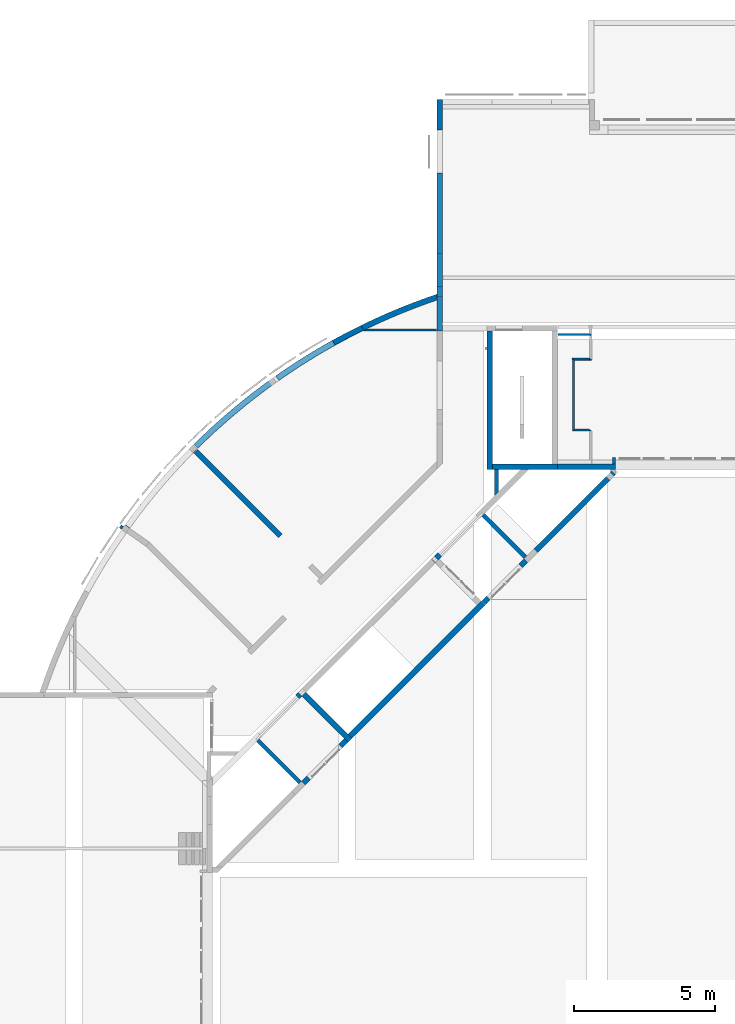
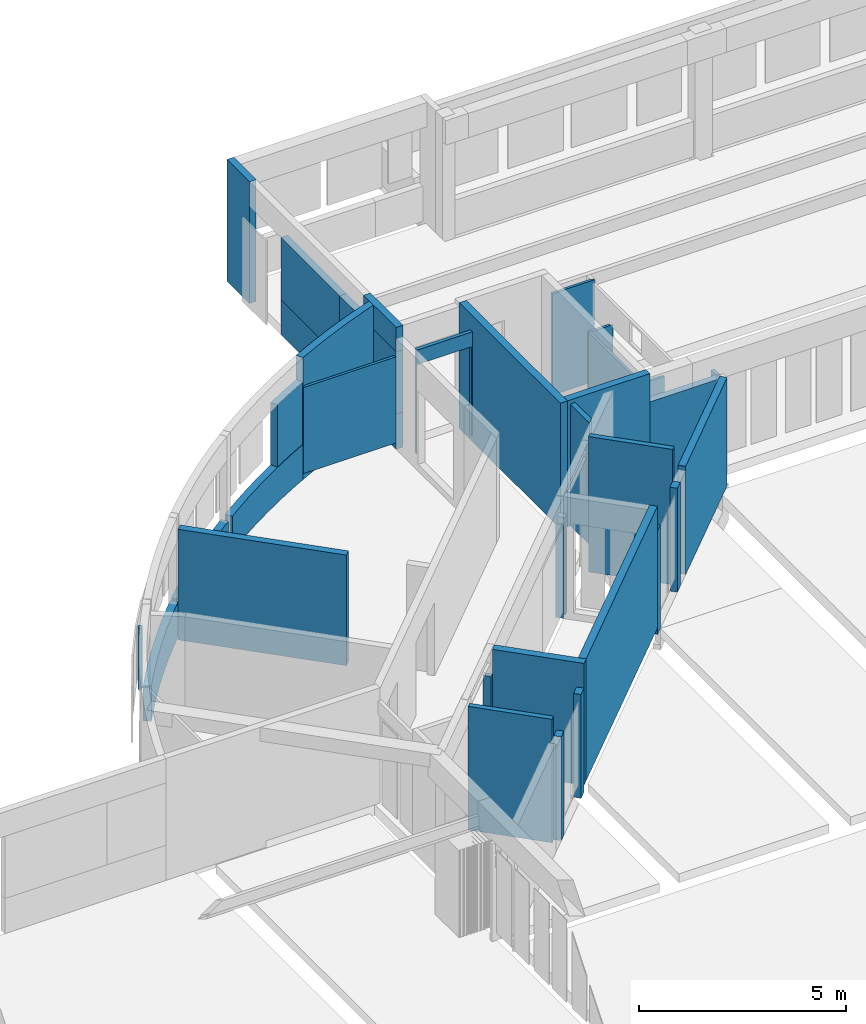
# One storey, part 19 of 30: 35 walls.
"""IFC4X3_ADD2 building model written with IfcOpenShell, lengths in millimetres."""

from ifc_helpers import new_model, si_unit, point, direction, frame, frame_2d, origin_with_axes, origin_2d_with_axis, place, context, subcontext, project, spatial, polyline, circle_curve, trimmed, segment, composite_curve, rectangle, outline, extrude, source, transform, mapped, material, type_object, type_shapes, element, save


model = new_model("IFC4X3_ADD2")

# Units and contexts
model_context = context("Model", 3, precision=1e-05, world=origin_with_axes(), true_north=direction((0.0, 1.0)))
body_context = subcontext(model_context, "Body", "Model", "MODEL_VIEW")
ifc_project = project(units=[si_unit("LENGTHUNIT", "METRE", prefix="MILLI"), si_unit("AREAUNIT", "SQUARE_METRE"), si_unit("VOLUMEUNIT", "CUBIC_METRE"), si_unit("PLANEANGLEUNIT", "RADIAN"), si_unit("TIMEUNIT", "SECOND"), si_unit("MASSUNIT", "GRAM")], contexts=[model_context])

# Site, building, storey
site_placement = place(None, origin_with_axes())
site = spatial("IfcSite", under=ifc_project, at=site_placement, Name="Site", CompositionType="ELEMENT")
building_placement = place(site_placement, origin_with_axes())
building = spatial("IfcBuilding", under=site, at=building_placement, Name="IFC Building Story")
storey_placement = place(building_placement, origin_with_axes())
storey = spatial("IfcBuildingStorey", under=building, at=storey_placement, Name="000", Elevation=0.0)

# Walls
ifc_material_1 = material(Name="BB_Beton_Bestaand")
wall_type_1 = type_object("IfcWallType", Name="BB_Beton_Bestaand 200", PredefinedType="NOTDEFINED", material=ifc_material_1)
wall_1_placement = place(storey_placement, origin_with_axes())
element("IfcWall", 1, at=wall_1_placement, inside=storey, type_object=wall_type_1, Name="Basic Wall:BB_XX_Wand uit beton, 200 mm", ObjectType="Basic Wall:BB_XX_Wand uit beton, 200 mm", PredefinedType="SOLIDWALL", context=body_context, shape_type="SweptSolid", body=[
    extrude(outline(composite_curve([segment(polyline([(-9733.712799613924, 19905.77020733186), (-9821.569416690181, 20085.43994556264)]), True, "CONTINUOUS"), segment(trimmed(circle_curve(origin_2d_with_axis(), 22358.17800299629), [point((-9821.569416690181, 20085.43994556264))], [point((-7143.15195390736, 21186.39902808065))], False, "CARTESIAN"), True, "CONTINUOUS"), segment(polyline([(-7143.15195390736, 21186.39902808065), (-7143.151953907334, 20975.22902320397)]), True, "CONTINUOUS"), segment(trimmed(circle_curve(origin_2d_with_axis(), 22158.17800299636), [point((-7143.151953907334, 20975.22902320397))], [point((-9733.712799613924, 19905.77020733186))], True, "CARTESIAN"), True, "CONTINUOUS")], self_intersect=False)), frame((-23516.84804616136, 23618.25324378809, -200.0), z_axis=(0.0, 0.0, 1.0), x_axis=(1.0, 0.0, 0.0)), (0.0, 0.0, 1.0), 3600.0),
])
wall_2_placement = place(storey_placement, origin_with_axes())
element("IfcWall", 2, at=wall_2_placement, inside=storey, type_object=wall_type_1, Name="Basic Wall:BB_XX_Wand uit beton, 200 mm", ObjectType="Basic Wall:BB_XX_Wand uit beton, 200 mm", PredefinedType="SOLIDWALL", context=body_context, shape_type="SweptSolid", body=[
    extrude(rectangle(XDim=2299.999999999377, YDim=199.9999999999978, at=frame_2d((0.0, 0.0), x_axis=(0.707106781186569, -0.707106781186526))), frame((-34551.52543263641, 29835.12320212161, -200.0), z_axis=(0.0, 0.0, 1.0), x_axis=(1.0, 0.0, 0.0)), (0.0, 0.0, 1.0), 3600.0),
])
wall_3_placement = place(storey_placement, origin_with_axes())
element("IfcWall", 3, at=wall_3_placement, inside=storey, type_object=wall_type_1, Name="Basic Wall:BB_XX_Wand uit beton, 200 mm", ObjectType="Basic Wall:BB_XX_Wand uit beton, 200 mm", PredefinedType="SOLIDWALL", context=body_context, shape_type="SweptSolid", body=[
    extrude(rectangle(XDim=6670.000000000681, YDim=199.9999999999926, at=frame_2d((0.0, 0.0), x_axis=(0.7071067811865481, 0.7071067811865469))), frame((-31380.15151901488, 31521.57287525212, -200.0), z_axis=(0.0, 0.0, 1.0), x_axis=(1.0, 0.0, 0.0)), (0.0, 0.0, 1.0), 3600.0),
])
wall_4_placement = place(storey_placement, origin_with_axes())
element("IfcWall", 4, at=wall_4_placement, inside=storey, type_object=wall_type_1, Name="Basic Wall:BB_XX_Wand uit beton, 200 mm", ObjectType="Basic Wall:BB_XX_Wand uit beton, 200 mm", PredefinedType="SOLIDWALL", context=body_context, shape_type="SweptSolid", body=[
    extrude(rectangle(XDim=4900.004065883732, YDim=200.0, at=frame_2d((0.0, 0.0), x_axis=(0.0, 1.0))), frame((-28800.0, 41049.99796705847, -200.0), z_axis=(0.0, 0.0, 1.0), x_axis=(1.0, 0.0, 0.0)), (0.0, 0.0, 1.0), 3720.0),
])
wall_5_placement = place(storey_placement, origin_with_axes())
element("IfcWall", 5, at=wall_5_placement, inside=storey, type_object=wall_type_1, Name="Basic Wall:BB_XX_Wand uit beton, 200 mm", ObjectType="Basic Wall:BB_XX_Wand uit beton, 200 mm", PredefinedType="SOLIDWALL", context=body_context, shape_type="SweptSolid", body=[
    extrude(rectangle(XDim=2299.999999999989, YDim=200.0, at=origin_2d_with_axis()), frame((-27550.0, 38699.9959341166, -200.0), z_axis=(0.0, 0.0, 1.0), x_axis=(1.0, 0.0, 0.0)), (0.0, 0.0, 1.0), 3720.0),
])
wall_6_placement = place(storey_placement, origin_with_axes())
element("IfcWall", 6, at=wall_6_placement, inside=storey, type_object=wall_type_1, Name="Basic Wall:BB_XX_Wand uit beton, 200 mm", ObjectType="Basic Wall:BB_XX_Wand uit beton, 200 mm", PredefinedType="SOLIDWALL", context=body_context, shape_type="SweptSolid", body=[
    extrude(outline(composite_curve([segment(polyline([(-1447.86300735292, -971.9756328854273), (-1562.966954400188, -808.4180547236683)]), True, "CONTINUOUS"), segment(trimmed(circle_curve(frame_2d((11213.57116789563, -18963.30923071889), x_axis=(1.0, 0.0)), 22200.00000006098), [point((-1562.966954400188, -808.4180547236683))], [point((1461.486672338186, 980.0317129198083))], False, "CARTESIAN"), True, "CONTINUOUS"), segment(polyline([(1461.486672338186, 980.0317129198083), (1549.343289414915, 800.3619746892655)]), True, "CONTINUOUS"), segment(trimmed(circle_curve(frame_2d((11213.57116789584, -18963.30923071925), x_axis=(1.0, 0.0)), 22000.0000000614), [point((1549.343289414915, 800.3619746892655))], [point((-1447.86300735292, -971.9756328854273))], True, "CARTESIAN"), True, "CONTINUOUS")], self_intersect=False)), frame((-34799.90413523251, 42723.66147642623, -200.0), z_axis=(0.0, 0.0, 1.0), x_axis=(1.0, 0.0, 0.0)), (0.0, 0.0, 1.0), 1040.0),
])
wall_7_placement = place(storey_placement, origin_with_axes())
element("IfcWall", 7, at=wall_7_placement, inside=storey, type_object=wall_type_1, Name="Basic Wall:BB_XX_Wand uit beton, 200 mm", ObjectType="Basic Wall:BB_XX_Wand uit beton, 200 mm", PredefinedType="SOLIDWALL", context=body_context, shape_type="SweptSolid", body=[
    extrude(outline(composite_curve([segment(polyline([(-1095.967827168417, -1445.903082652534), (-1258.545572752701, -1329.419278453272)]), True, "CONTINUOUS"), segment(trimmed(circle_curve(frame_2d((16916.16530275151, -14351.24742220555), x_axis=(1.0, 0.0)), 22358.17800299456), [point((-1258.545572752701, -1329.419278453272))], [point((1106.546021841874, 1458.371858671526))], False, "CARTESIAN"), True, "CONTINUOUS"), segment(polyline([(1106.546021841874, 1458.371858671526), (1247.967378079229, 1316.950502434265)]), True, "CONTINUOUS"), segment(trimmed(circle_curve(frame_2d((16916.16530275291, -14351.24742220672), x_axis=(1.0, 0.0)), 22158.17800299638), [point((1247.967378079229, 1316.950502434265))], [point((-1095.967827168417, -1445.903082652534))], True, "CARTESIAN"), True, "CONTINUOUS")], self_intersect=False)), frame((-40433.0133489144, 37969.50066599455, -200.0), z_axis=(0.0, 0.0, 1.0), x_axis=(1.0, 0.0, 0.0)), (0.0, 0.0, 1.0), 1040.0),
])
wall_8_placement = place(storey_placement, origin_with_axes())
element("IfcWall", 8, at=wall_8_placement, inside=storey, type_object=wall_type_1, Name="Basic Wall:BB_XX_Wand uit beton, 200 mm", ObjectType="Basic Wall:BB_XX_Wand uit beton, 200 mm", PredefinedType="SOLIDWALL", context=body_context, shape_type="SweptSolid", body=[
    extrude(outline(composite_curve([segment(polyline([(-1275.108972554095, -1208.075469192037), (-1415.886190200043, -1066.012894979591)]), True, "CONTINUOUS"), segment(trimmed(circle_curve(frame_2d((14321.72426428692, -16947.31450399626), x_axis=(1.0, 0.0)), 22358.17800299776), [point((-1415.886190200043, -1066.012894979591))], [point((1287.198889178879, 1218.29233583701))], False, "CARTESIAN"), True, "CONTINUOUS"), segment(polyline([(1287.198889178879, 1218.29233583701), (1403.796273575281, 1055.796028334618)]), True, "CONTINUOUS"), segment(trimmed(circle_curve(frame_2d((14321.72426428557, -16947.31450399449), x_axis=(1.0, 0.0)), 22158.17800299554), [point((1403.796273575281, 1055.796028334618))], [point((-1275.108972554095, -1208.075469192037))], True, "CARTESIAN"), True, "CONTINUOUS")], self_intersect=False)), frame((-37838.57231044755, 40565.56774778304, -310.0), z_axis=(0.0, 0.0, 1.0), x_axis=(1.0, 0.0, 0.0)), (0.0, 0.0, 1.0), 1150.0),
])
wall_type_2 = type_object("IfcWallType", Name="BB_Beton_Bestaand 190", PredefinedType="NOTDEFINED", material=ifc_material_1)
wall_9_placement = place(storey_placement, origin_with_axes())
element("IfcWall", 9, at=wall_9_placement, inside=storey, type_object=wall_type_2, Name="Basic Wall:BB_XX_Wand uit beton, 190 mm", ObjectType="Basic Wall:BB_XX_Wand uit beton, 190 mm", PredefinedType="SOLIDWALL", context=body_context, shape_type="SweptSolid", body=[
    extrude(rectangle(XDim=5585.000000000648, YDim=190.0, at=frame_2d((0.0, 0.0), x_axis=(0.0, 1.0))), frame((-30565.0, 46292.50000000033, -200.0), z_axis=(0.0, 0.0, 1.0), x_axis=(1.0, 0.0, 0.0)), (0.0, 0.0, 1.0), 1040.0),
])
wall_10_placement = place(storey_placement, origin_with_axes())
element("IfcWall", 10, at=wall_10_placement, inside=storey, type_object=wall_type_2, Name="Basic Wall:BB_XX_Wand uit beton, 190 mm", ObjectType="Basic Wall:BB_XX_Wand uit beton, 190 mm", PredefinedType="SOLIDWALL", context=body_context, shape_type="SweptSolid", body=[
    extrude(rectangle(XDim=2055.000000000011, YDim=190.0, at=origin_2d_with_axis()), frame((-25372.5, 38699.9959341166, -200.0), z_axis=(0.0, 0.0, 1.0), x_axis=(1.0, 0.0, 0.0)), (0.0, 0.0, 1.0), 2880.0),
])
wall_11_placement = place(storey_placement, origin_with_axes())
element("IfcWall", 11, at=wall_11_placement, inside=storey, type_object=wall_type_2, Name="Basic Wall:BB_XX_Wand uit beton, 190 mm", ObjectType="Basic Wall:BB_XX_Wand uit beton, 190 mm", PredefinedType="SOLIDWALL", context=body_context, shape_type="SweptSolid", body=[
    extrude(rectangle(XDim=1089.999999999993, YDim=190.0000000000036, at=frame_2d((0.0, 0.0), x_axis=(0.0, 1.0))), frame((-30565.0, 51149.99999999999, -200.0), z_axis=(0.0, 0.0, 1.0), x_axis=(1.0, 0.0, 0.0)), (0.0, 0.0, 1.0), 3600.0),
])
wall_type_3 = type_object("IfcWallType", Name="Basic Wall_BB_XX_Wand uit beton_ 200 mm1", PredefinedType="NOTDEFINED")
shared_shape_1 = source(origin_with_axes(), body_context, "Body", "SweptSolid", [
    extrude(rectangle(XDim=200.0000000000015, YDim=170.0000000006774, at=frame_2d((0.0, 0.0), x_axis=(0.0, 1.0))), frame((84.99999999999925, -3.993250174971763e-12, 0.0), z_axis=(0.0, 0.0, 1.0), x_axis=(1.0, 0.0, 0.0)), (0.0, 0.0, 1.0), 2880.0),
    extrude(rectangle(XDim=200.0000000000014, YDim=11.99999999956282, at=frame_2d((0.0, 0.0), x_axis=(0.0, 1.0))), frame((314.0000000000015, 3.151257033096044e-12, 0.0), z_axis=(0.0, 0.0, 1.0), x_axis=(1.0, 0.0, 0.0)), (0.0, 0.0, 1.0), 2770.0),
])
type_shapes(wall_type_3, [shared_shape_1])
wall_12_placement = place(storey_placement, frame((-30563.4431867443, 35590.972400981, -200.0), z_axis=(0.0, 0.0, 1.0), x_axis=(-0.7071067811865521, -0.707106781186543, 0.0)))
element("IfcWall", 12, at=wall_12_placement, inside=storey, type_object=wall_type_3, material=ifc_material_1, Name="Basic Wall:BB_XX_Wand uit beton, 200 mm", ObjectType="Basic Wall:BB_XX_Wand uit beton, 200 mm", PredefinedType="SOLIDWALL", context=body_context, shape_type="MappedRepresentation", body=[
    mapped(shared_shape_1, transform((0.0, 0.0, 0.0))),
])
ifc_material_2 = material(Name="BB_Metselwerk_Bestaand")
wall_type_4 = type_object("IfcWallType", Name="BB_Metselwerk_Bestaand 140", PredefinedType="NOTDEFINED", material=ifc_material_2)
wall_13_placement = place(storey_placement, origin_with_axes())
element("IfcWall", 13, at=wall_13_placement, inside=storey, type_object=wall_type_4, Name="Basic Wall:BB_XX_Wand uit metselwerk, 140 mm", ObjectType="Basic Wall:BB_XX_Wand uit metselwerk, 140 mm", PredefinedType="SOLIDWALL", context=body_context, shape_type="SweptSolid", body=[
    extrude(outline(polyline([(-69.99999999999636, -499.0794950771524), (-69.99999999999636, 429.0794950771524), (70.0, 429.0794950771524), (70.0, -359.0794950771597), (-69.99999999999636, -499.0794950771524)])), frame((-28554.0, 38170.91643903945, -200.0), z_axis=(0.0, 0.0, 1.0), x_axis=(1.0, 0.0, 0.0)), (0.0, 0.0, 1.0), 3600.0),
])
wall_type_5 = type_object("IfcWallType", Name="BB_Metselwerk_Bestaand 190", PredefinedType="NOTDEFINED", material=ifc_material_2)
wall_14_placement = place(storey_placement, origin_with_axes())
element("IfcWall", 14, at=wall_14_placement, inside=storey, type_object=wall_type_5, Name="Basic Wall:BB_XX_Wand uit metselwerk, 190 mm", ObjectType="Basic Wall:BB_XX_Wand uit metselwerk, 190 mm", PredefinedType="SOLIDWALL", context=body_context, shape_type="SweptSolid", body=[
    extrude(rectangle(XDim=1515.000000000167, YDim=190.0, at=frame_2d((0.0, 0.0), x_axis=(0.0, 1.0))), frame((-30565.0, 45477.49999999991, 840.0), z_axis=(0.0, 0.0, 1.0), x_axis=(1.0, 0.0, 0.0)), (0.0, 0.0, 1.0), 1840.0),
])
wall_15_placement = place(storey_placement, origin_with_axes())
element("IfcWall", 15, at=wall_15_placement, inside=storey, type_object=wall_type_5, Name="Basic Wall:BB_XX_Wand uit metselwerk, 190 mm", ObjectType="Basic Wall:BB_XX_Wand uit metselwerk, 190 mm", PredefinedType="SOLIDWALL", context=body_context, shape_type="SweptSolid", body=[
    extrude(rectangle(XDim=1574.999999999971, YDim=190.0, at=frame_2d((0.0, 0.0), x_axis=(0.0, 1.0))), frame((-30565.0, 44287.50000000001, 2680.0), z_axis=(0.0, 0.0, 1.0), x_axis=(1.0, 0.0, 0.0)), (0.0, 0.0, 1.0), 720.000000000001),
])
wall_16_placement = place(storey_placement, origin_with_axes())
element("IfcWall", 16, at=wall_16_placement, inside=storey, type_object=wall_type_5, Name="Basic Wall:BB_XX_Wand uit metselwerk, _EI60_43dB, 190 mm", ObjectType="Basic Wall:BB_XX_Wand uit metselwerk, _EI60_43dB, 190 mm", PredefinedType="SOLIDWALL", context=body_context, shape_type="SweptSolid", body=[
    extrude(rectangle(XDim=1220.0, YDim=190.0, at=frame_2d((0.0, 0.0), x_axis=(0.0, 1.0))), frame((-30565.0, 44110.0, 840.0), z_axis=(0.0, 0.0, 1.0), x_axis=(1.0, 0.0, 0.0)), (0.0, 0.0, 1.0), 1840.0),
])
ifc_material_3 = material(Name="BB_Metselwerk_Betonsteen")
wall_type_6 = type_object("IfcWallType", Name="BB_Metselwerk_Betonsteen 190", PredefinedType="NOTDEFINED", material=ifc_material_3)
wall_17_placement = place(storey_placement, origin_with_axes())
element("IfcWall", 17, at=wall_17_placement, inside=storey, type_object=wall_type_6, Name="Basic Wall:BB_03.09.24#03_Wand uit metselwerk, 190 mm", ObjectType="Basic Wall:BB_03.09.24#03_Wand uit metselwerk, 190 mm", PredefinedType="SOLIDWALL", context=body_context, shape_type="SweptSolid", body=[
    extrude(outline(composite_curve([segment(polyline([(466.7199891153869, 350.4098670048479), (550.1837753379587, 179.723615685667)]), True, "CONTINUOUS"), segment(trimmed(circle_curve(frame_2d((10288.28940580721, -19735.0300785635), x_axis=(1.0, 0.0)), 22168.17800300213), [point((550.1837753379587, 179.723615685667))], [point((-462.3807228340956, -348.1477155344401))], True, "CARTESIAN"), True, "CONTINUOUS"), segment(polyline([(-462.3807228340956, -348.1477155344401), (-554.5230416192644, -181.9857671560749)]), True, "CONTINUOUS"), segment(trimmed(circle_curve(frame_2d((10288.28940580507, -19735.03007855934), x_axis=(1.0, 0.0)), 22358.17800299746), [point((-554.5230416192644, -181.9857671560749))], [point((466.7199891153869, 350.4098670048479))], False, "CARTESIAN"), True, "CONTINUOUS")], self_intersect=False)), frame((-33805.13745196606, 43353.28332234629, 840.0), z_axis=(0.0, 0.0, 1.0), x_axis=(1.0, 0.0, 0.0)), (0.0, 0.0, 1.0), 1840.0),
])
wall_18_placement = place(storey_placement, origin_with_axes())
element("IfcWall", 18, at=wall_18_placement, inside=storey, type_object=wall_type_6, Name="Basic Wall:BB_03.09.24#03_Wand uit metselwerk, 190 mm", ObjectType="Basic Wall:BB_03.09.24#03_Wand uit metselwerk, 190 mm", PredefinedType="SOLIDWALL", context=body_context, shape_type="SweptSolid", body=[
    extrude(rectangle(XDim=2850.00000000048, YDim=190.0, at=frame_2d((0.0, 0.0), x_axis=(0.0, 1.0))), frame((-30565.0, 47660.00000000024, 840.0), z_axis=(0.0, 0.0, 1.0), x_axis=(1.0, 0.0, 0.0)), (0.0, 0.0, 1.0), 1840.0),
])
wall_19_placement = place(storey_placement, origin_with_axes())
element("IfcWall", 19, at=wall_19_placement, inside=storey, type_object=wall_type_6, Name="Basic Wall:BB_03.09.24#03_Wand uit metselwerk, 190 mm", ObjectType="Basic Wall:BB_03.09.24#03_Wand uit metselwerk, 190 mm", PredefinedType="SOLIDWALL", context=body_context, shape_type="SweptSolid", body=[
    extrude(rectangle(XDim=4222.366668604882, YDim=189.9999999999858, at=frame_2d((0.0, 0.0), x_axis=(-0.7071067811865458, 0.7071067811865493))), frame((-37694.30846382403, 37753.16371611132, -200.0), z_axis=(0.0, 0.0, 1.0), x_axis=(1.0, 0.0, 0.0)), (0.0, 0.0, 1.0), 3270.0),
])
wall_20_placement = place(storey_placement, origin_with_axes())
element("IfcWall", 20, at=wall_20_placement, inside=storey, type_object=wall_type_6, Name="Basic Wall:BB_03.09.24#05_Wand uit metselwerk_EI60, 190 mm", ObjectType="Basic Wall:BB_03.09.24#05_Wand uit metselwerk_EI60, 190 mm", PredefinedType="SOLIDWALL", context=body_context, shape_type="SweptSolid", body=[
    extrude(rectangle(XDim=3886.428463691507, YDim=190.0000000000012, at=frame_2d((0.0, 0.0), x_axis=(0.7071067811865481, 0.7071067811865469))), frame((-25784.66407470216, 37109.98925176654, -400.0), z_axis=(0.0, 0.0, 1.0), x_axis=(1.0, 0.0, 0.0)), (0.0, 0.0, 1.0), 3200.0),
])
wall_21_placement = place(storey_placement, origin_with_axes())
element("IfcWall", 21, at=wall_21_placement, inside=storey, type_object=wall_type_6, Name="Basic Wall:BB_03.09.24#05_Wand uit metselwerk_EI60, 190 mm", ObjectType="Basic Wall:BB_03.09.24#05_Wand uit metselwerk_EI60, 190 mm", PredefinedType="SOLIDWALL", context=body_context, shape_type="SweptSolid", body=[
    extrude(rectangle(XDim=250.0000000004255, YDim=189.9999999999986, at=frame_2d((0.0, 0.0), x_axis=(0.7071067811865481, 0.7071067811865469))), frame((-28919.41992049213, 33975.23340597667, -400.0), z_axis=(0.0, 0.0, 1.0), x_axis=(1.0, 0.0, 0.0)), (0.0, 0.0, 1.0), 3069.99999999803),
])
wall_22_placement = place(storey_placement, origin_with_axes())
element("IfcWall", 22, at=wall_22_placement, inside=storey, type_object=wall_type_6, Name="Basic Wall:BB_03.09.24#05_Wand uit metselwerk_EI60, 190 mm", ObjectType="Basic Wall:BB_03.09.24#05_Wand uit metselwerk_EI60, 190 mm", PredefinedType="SOLIDWALL", context=body_context, shape_type="SweptSolid", body=[
    extrude(rectangle(XDim=270.0011149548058, YDim=190.0000000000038, at=frame_2d((0.0, 0.0), x_axis=(0.7071067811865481, 0.7071067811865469))), frame((-27607.73723558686, 35286.91609088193, -400.0), z_axis=(0.0, 0.0, 1.0), x_axis=(1.0, 0.0, 0.0)), (0.0, 0.0, 1.0), 3069.99999999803),
])
wall_23_placement = place(storey_placement, origin_with_axes())
element("IfcWall", 23, at=wall_23_placement, inside=storey, type_object=wall_type_6, Name="Basic Wall:BB_03.09.24#05_Wand uit metselwerk_EI60, 190 mm", ObjectType="Basic Wall:BB_03.09.24#05_Wand uit metselwerk_EI60, 190 mm", PredefinedType="SOLIDWALL", context=body_context, shape_type="SweptSolid", body=[
    extrude(rectangle(XDim=254.9921775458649, YDim=190.0000000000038, at=frame_2d((0.0, 0.0), x_axis=(0.7071067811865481, 0.7071067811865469))), frame((-35292.2037299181, 27602.4119532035, -400.0), z_axis=(0.0, 0.0, 1.0), x_axis=(1.0, 0.0, 0.0)), (0.0, 0.0, 1.0), 3069.999999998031),
])
wall_24_placement = place(storey_placement, origin_with_axes())
element("IfcWall", 24, at=wall_24_placement, inside=storey, type_object=wall_type_6, Name="Basic Wall:BB_03.09.24#05_Wand uit metselwerk_EI60, 190 mm", ObjectType="Basic Wall:BB_03.09.24#05_Wand uit metselwerk_EI60, 190 mm", PredefinedType="SOLIDWALL", context=body_context, shape_type="SweptSolid", body=[
    extrude(outline(polyline([(166.157490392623, 31.82602241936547), (-31.8008160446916, -166.1699249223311), (-166.1638757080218, -31.8324089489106), (31.80720136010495, 166.1763114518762), (166.157490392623, 31.82602241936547)])), frame((-33975.22080217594, 28919.41370261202, -400.0), z_axis=(0.0, 0.0, 1.0), x_axis=(1.0, 0.0, 0.0)), (0.0, 0.0, 1.0), 3069.99999999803),
])
wall_type_7 = type_object("IfcWallType", Name="Basic Wall_BB_10.01.62#01_Voorzetwand gipskarton_MS75 _ 50.25_ 75 mm1", PredefinedType="NOTDEFINED")
shared_shape_2 = source(origin_with_axes(), body_context, "Body", "SweptSolid", [
    extrude(rectangle(XDim=1112.499999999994, YDim=12.49999999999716, at=origin_2d_with_axis()), frame((556.249999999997, 31.25000000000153, 0.0), z_axis=(0.0, 0.0, 1.0), x_axis=(1.0, 0.0, 0.0)), (0.0, 0.0, 1.0), 3000.0),
    extrude(rectangle(XDim=1124.999999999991, YDim=12.50000000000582, at=origin_2d_with_axis()), frame((562.4999999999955, 18.7500000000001, 0.0), z_axis=(0.0, 0.0, 1.0), x_axis=(1.0, 0.0, 0.0)), (0.0, 0.0, 1.0), 3000.0),
    extrude(rectangle(XDim=1174.999999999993, YDim=49.9999999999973, at=origin_2d_with_axis()), frame((587.5000000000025, -12.50000000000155, 0.0), z_axis=(0.0, 0.0, 1.0), x_axis=(1.0, 0.0, 0.0)), (0.0, 0.0, 1.0), 3000.0),
])
type_shapes(wall_type_7, [shared_shape_2])
wall_25_placement = place(storey_placement, frame((-26385.0, 43377.5000000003, 0.0), z_axis=(0.0, 0.0, 1.0), x_axis=(1.0, 0.0, 0.0)))
element("IfcWall", 25, at=wall_25_placement, inside=storey, type_object=wall_type_7, Name="Basic Wall:BB_10.01.62#01_Voorzetwand gipskarton_MS75 / 50.25, 75 mm", ObjectType="Basic Wall:BB_10.01.62#01_Voorzetwand gipskarton_MS75 / 50.25, 75 mm", PredefinedType="PARTITIONING", context=body_context, shape_type="MappedRepresentation", body=[
    mapped(shared_shape_2, transform((0.0, 0.0, 0.0))),
])
wall_type_8 = type_object("IfcWallType", Name="Basic Wall_BB_10.01.41#03_Gipskartonwand_43dB_MS100 _ 25.50.25_ 100 mm1", PredefinedType="NOTDEFINED")
shared_shape_3 = source(origin_with_axes(), body_context, "Body", "SweptSolid", [
    extrude(outline(polyline([(756.2500000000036, -1212.5), (756.2500000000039, 1427.5), (781.2499999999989, 1427.5), (781.2499999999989, -1642.5), (-773.750000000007, -1642.5), (-773.7500000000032, 1427.5), (-763.7499999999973, 1427.5), (-763.7499999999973, -1212.5), (756.2500000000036, -1212.5)])), frame((773.7500000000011, 37.4999999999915, 1427.5), z_axis=(0.0, 1.0, 0.0), x_axis=(1.0, 0.0, 0.0)), (0.0, 0.0, 1.0), 12.4999999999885),
    extrude(outline(polyline([(756.2500000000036, -1212.5), (756.2500000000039, 1427.5), (781.2499999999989, 1427.5), (781.2499999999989, -1642.5), (-773.750000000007, -1642.5), (-773.7500000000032, 1427.5), (-763.7499999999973, 1427.5), (-763.7499999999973, -1212.5), (756.2500000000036, -1212.5)])), frame((773.7500000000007, 25.0, 1427.5), z_axis=(0.0, 1.0, 0.0), x_axis=(1.0, 0.0, 0.0)), (0.0, 0.0, 1.0), 12.49999999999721),
    extrude(outline(polyline([(756.2500000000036, -1212.5), (756.2500000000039, 1427.5), (781.2499999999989, 1427.5), (781.2499999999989, -1642.5), (-773.750000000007, -1642.5), (-773.7500000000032, 1427.5), (-763.7499999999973, 1427.5), (-763.7499999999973, -1212.5), (756.2500000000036, -1212.5)])), frame((773.7500000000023, -25.0, 1427.5), z_axis=(0.0, 1.0, 0.0), x_axis=(1.0, 0.0, 0.0)), (0.0, 0.0, 1.0), 50.000000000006),
    extrude(outline(polyline([(756.2500000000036, -1212.5), (756.2500000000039, 1427.5), (781.2499999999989, 1427.5), (781.2499999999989, -1642.5), (-773.750000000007, -1642.5), (-773.7500000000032, 1427.5), (-763.7499999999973, 1427.5), (-763.7499999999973, -1212.5), (756.2500000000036, -1212.5)])), frame((773.7500000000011, -37.5000000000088, 1427.5), z_axis=(0.0, 1.0, 0.0), x_axis=(1.0, 0.0, 0.0)), (0.0, 0.0, 1.0), 12.49999999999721),
    extrude(outline(polyline([(781.2499999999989, 1427.5), (781.2499999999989, -1642.5), (-773.750000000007, -1642.5), (-773.7500000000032, 1427.5), (-763.7499999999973, 1427.5), (-763.7499999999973, -1212.5), (756.2500000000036, -1212.5), (756.2500000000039, 1427.5), (781.2499999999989, 1427.5)])), frame((773.7500000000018, -50.0, 1427.5), z_axis=(0.0, 1.0, 0.0), x_axis=(1.0, 0.0, 0.0)), (0.0, 0.0, 1.0), 12.5000000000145),
])
type_shapes(wall_type_8, [shared_shape_3])
wall_26_placement = place(storey_placement, frame((-30470.0, 42880.0, 0.0), z_axis=(0.0, 0.0, 1.0), x_axis=(1.0, 0.0, 0.0)))
element("IfcWall", 26, at=wall_26_placement, inside=storey, type_object=wall_type_8, Name="Basic Wall:BB_10.01.41#03_Gipskartonwand_43dB_MS100 / 25.50.25, 100 mm", ObjectType="Basic Wall:BB_10.01.41#03_Gipskartonwand_43dB_MS100 / 25.50.25, 100 mm", PredefinedType="PARTITIONING", context=body_context, shape_type="MappedRepresentation", body=[
    mapped(shared_shape_3, transform((0.0, 0.0, 0.0))),
])
wall_type_9 = type_object("IfcWallType", Name="Basic Wall_BB_10.01.41#03_Gipskartonwand_43dB_MS100 _ 25.50.25_ 100 mm25", PredefinedType="NOTDEFINED")
shared_shape_4 = source(origin_with_axes(), body_context, "Body", "SweptSolid", [
    extrude(rectangle(XDim=240.000000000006, YDim=12.50000000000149, at=origin_2d_with_axis()), frame((120.0, 43.75000000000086, 0.0), z_axis=(0.0, 0.0, 1.0), x_axis=(1.0, 0.0, 0.0)), (0.0, 0.0, 1.0), 2880.0),
    extrude(rectangle(XDim=240.000000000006, YDim=12.50000000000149, at=origin_2d_with_axis()), frame((120.0, 31.24999999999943, 0.0), z_axis=(0.0, 0.0, 1.0), x_axis=(1.0, 0.0, 0.0)), (0.0, 0.0, 1.0), 2880.0),
    extrude(rectangle(XDim=240.000000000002, YDim=49.9999999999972, at=origin_2d_with_axis()), frame((119.999999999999, 0.0, 0.0), z_axis=(0.0, 0.0, 1.0), x_axis=(1.0, 0.0, 0.0)), (0.0, 0.0, 1.0), 2880.0),
    extrude(rectangle(XDim=240.000000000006, YDim=12.50000000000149, at=origin_2d_with_axis()), frame((120.0, -31.24999999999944, 0.0), z_axis=(0.0, 0.0, 1.0), x_axis=(1.0, 0.0, 0.0)), (0.0, 0.0, 1.0), 2880.0),
    extrude(rectangle(XDim=240.000000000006, YDim=12.49999999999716, at=origin_2d_with_axis()), frame((119.999999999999, -43.7499999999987, 0.0), z_axis=(0.0, 0.0, 1.0), x_axis=(1.0, 0.0, 0.0)), (0.0, 0.0, 1.0), 2880.0),
])
type_shapes(wall_type_9, [shared_shape_4])
wall_27_placement = place(storey_placement, frame((-24395.0, 39034.9959341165, -200.0), z_axis=(0.0, 0.0, 1.0), x_axis=(0.0, -1.0, 0.0)))
element("IfcWall", 27, at=wall_27_placement, inside=storey, type_object=wall_type_9, Name="Basic Wall:BB_10.01.41#03_Gipskartonwand_43dB_MS100 / 25.50.25, 100 mm", ObjectType="Basic Wall:BB_10.01.41#03_Gipskartonwand_43dB_MS100 / 25.50.25, 100 mm", PredefinedType="PARTITIONING", context=body_context, shape_type="MappedRepresentation", body=[
    mapped(shared_shape_4, transform((0.0, 0.0, 0.0))),
])
wall_type_10 = type_object("IfcWallType", Name="Basic Wall_BB_10.01.41#xx_Brandscheidende wand_EI60_Hout 100 _ 10.100.15_ 125 mm3", PredefinedType="NOTDEFINED")
shared_shape_5 = source(origin_with_axes(), body_context, "Body", "SweptSolid", [
    extrude(rectangle(XDim=98.25293070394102, YDim=15.00000000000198, at=origin_2d_with_axis()), frame((49.1264653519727, 55.0, 0.0), z_axis=(0.0, 0.0, 1.0), x_axis=(1.0, 0.0, 0.0)), (0.0, 0.0, 1.0), 1820.0),
    extrude(rectangle(XDim=100.0000000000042, YDim=98.2529307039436, at=frame_2d((0.0, 0.0), x_axis=(0.0, 1.0))), frame((49.12646535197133, -2.500000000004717, 0.0), z_axis=(0.0, 0.0, 1.0), x_axis=(1.0, 0.0, 0.0)), (0.0, 0.0, 1.0), 1820.0),
    extrude(rectangle(XDim=98.25293070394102, YDim=9.999999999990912, at=origin_2d_with_axis()), frame((49.1264653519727, -57.4999999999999, 0.0), z_axis=(0.0, 0.0, 1.0), x_axis=(1.0, 0.0, 0.0)), (0.0, 0.0, 1.0), 1820.0),
])
type_shapes(wall_type_10, [shared_shape_5])
wall_28_placement = place(storey_placement, frame((-41860.722460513, 36594.6454172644, 860.0), z_axis=(0.0, 0.0, 1.0), x_axis=(0.8191520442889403, -0.57357643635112, 0.0)))
element("IfcWall", 28, at=wall_28_placement, inside=storey, type_object=wall_type_10, Name="Basic Wall:BB_10.01.41#xx_Brandscheidende wand_EI60_Hout 100 / 10.100.15, 125 mm", ObjectType="Basic Wall:BB_10.01.41#xx_Brandscheidende wand_EI60_Hout 100 / 10.100.15, 125 mm", PredefinedType="PARTITIONING", context=body_context, shape_type="MappedRepresentation", body=[
    mapped(shared_shape_5, transform((0.0, 0.0, 0.0))),
])
wall_type_11 = type_object("IfcWallType", Name="Basic Wall_BB_10.01.62#01_Voorzetwand gipskarton_MS75 _ 50.25_ 75 mm5", PredefinedType="NOTDEFINED")
shared_shape_6 = source(origin_with_axes(), body_context, "Body", "SweptSolid", [
    extrude(rectangle(XDim=609.50000000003, YDim=12.49999999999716, at=origin_2d_with_axis()), frame((242.2500000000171, 31.25000000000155, 0.0), z_axis=(0.0, 0.0, 1.0), x_axis=(1.0, 0.0, 0.0)), (0.0, 0.0, 1.0), 2200.0),
    extrude(rectangle(XDim=609.50000000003, YDim=12.50000000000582, at=origin_2d_with_axis()), frame((254.750000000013, 18.7500000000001, 0.0), z_axis=(0.0, 0.0, 1.0), x_axis=(1.0, 0.0, 0.0)), (0.0, 0.0, 1.0), 2200.0),
    extrude(rectangle(XDim=609.50000000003, YDim=49.9999999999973, at=origin_2d_with_axis()), frame((304.750000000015, -12.50000000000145, 0.0), z_axis=(0.0, 0.0, 1.0), x_axis=(1.0, 0.0, 0.0)), (0.0, 0.0, 1.0), 2200.0),
])
type_shapes(wall_type_11, [shared_shape_6])
wall_29_placement = place(storey_placement, frame((-25260.0, 42507.4979670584, 0.0), z_axis=(0.0, 0.0, 1.0), x_axis=(-1.0, 0.0, 0.0)))
element("IfcWall", 29, at=wall_29_placement, inside=storey, type_object=wall_type_11, Name="Basic Wall:BB_10.01.62#01_Voorzetwand gipskarton_MS75 / 50.25, 75 mm", ObjectType="Basic Wall:BB_10.01.62#01_Voorzetwand gipskarton_MS75 / 50.25, 75 mm", PredefinedType="PARTITIONING", context=body_context, shape_type="MappedRepresentation", body=[
    mapped(shared_shape_6, transform((0.0, 0.0, 0.0))),
])
wall_type_12 = type_object("IfcWallType", Name="Basic Wall_BB_10.01.62#01_Voorzetwand gipskarton_MS75 _ 50.25_ 75 mm7", PredefinedType="NOTDEFINED")
shared_shape_7 = source(origin_with_axes(), body_context, "Body", "SweptSolid", [
    extrude(rectangle(XDim=2577.99240117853, YDim=12.49999999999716, at=origin_2d_with_axis()), frame((1288.996200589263, 31.25000000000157, 0.0), z_axis=(0.0, 0.0, 1.0), x_axis=(1.0, 0.0, 0.0)), (0.0, 0.0, 1.0), 2545.0),
    extrude(rectangle(XDim=2577.99240117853, YDim=12.50000000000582, at=origin_2d_with_axis()), frame((1288.996200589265, 18.7500000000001, 0.0), z_axis=(0.0, 0.0, 1.0), x_axis=(1.0, 0.0, 0.0)), (0.0, 0.0, 1.0), 2545.0),
    extrude(outline(composite_curve([segment(polyline([(9639.121007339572, -19951.7467568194), (7158.151954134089, -19951.7467568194)]), True, "CONTINUOUS"), segment(polyline([(7158.151954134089, -19951.7467568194), (7158.151954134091, -19901.7467568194)]), True, "CONTINUOUS"), segment(polyline([(7158.151954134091, -19901.7467568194), (9736.144355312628, -19901.7467568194)]), True, "CONTINUOUS"), segment(polyline([(9736.144355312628, -19901.7467568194), (9736.144355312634, -19910.74282055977)]), True, "CONTINUOUS"), segment(polyline([(9736.144355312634, -19910.74282055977), (9733.712799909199, -19905.77020793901)]), True, "CONTINUOUS"), segment(trimmed(circle_curve(origin_2d_with_axis(), 22158.17800367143), [point((9733.712799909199, -19905.77020793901))], [point((9639.121007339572, -19951.7467568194))], False, "CARTESIAN"), True, "CONTINUOUS")], self_intersect=False)), frame((-7158.151954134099, 19914.2467568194, 0.0), z_axis=(0.0, 0.0, 1.0), x_axis=(1.0, 0.0, 0.0)), (0.0, 0.0, 1.0), 2545.0),
])
type_shapes(wall_type_12, [shared_shape_7])
wall_30_placement = place(storey_placement, frame((-30675.0, 43532.5000000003, -5.0), z_axis=(0.0, 0.0, 1.0), x_axis=(-1.0, 0.0, 0.0)))
element("IfcWall", 30, at=wall_30_placement, inside=storey, type_object=wall_type_12, Name="Basic Wall:BB_10.01.62#01_Voorzetwand gipskarton_MS75 / 50.25, 75 mm", ObjectType="Basic Wall:BB_10.01.62#01_Voorzetwand gipskarton_MS75 / 50.25, 75 mm", PredefinedType="PARTITIONING", context=body_context, shape_type="MappedRepresentation", body=[
    mapped(shared_shape_7, transform((0.0, 0.0, 0.0))),
])
wall_type_13 = type_object("IfcWallType", Name="Basic Wall_BB_10.01.62#01_Voorzetwand gipskarton_MS75 _ 50.25_ 75 mm11", PredefinedType="NOTDEFINED")
shared_shape_8 = source(origin_with_axes(), body_context, "Body", "SweptSolid", [
    extrude(rectangle(XDim=2513.00000000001, YDim=12.50000000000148, at=origin_2d_with_axis()), frame((1256.500000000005, 31.25000000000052, 0.0), z_axis=(0.0, 0.0, 1.0), x_axis=(1.0, 0.0, 0.0)), (0.0, 0.0, 1.0), 2200.0),
    extrude(rectangle(XDim=2525.5, YDim=12.49999999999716, at=origin_2d_with_axis()), frame((1250.25000000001, 18.75000000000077, 0.0), z_axis=(0.0, 0.0, 1.0), x_axis=(1.0, 0.0, 0.0)), (0.0, 0.0, 1.0), 2200.0),
    extrude(rectangle(XDim=2538.00000000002, YDim=50.00000000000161, at=origin_2d_with_axis()), frame((1244.0, -12.49999999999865, 0.0), z_axis=(0.0, 0.0, 1.0), x_axis=(1.0, 0.0, 0.0)), (0.0, 0.0, 1.0), 2200.0),
])
type_shapes(wall_type_13, [shared_shape_8])
wall_31_placement = place(storey_placement, frame((-25832.0, 42469.9979670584, 0.0), z_axis=(0.0, 0.0, 1.0), x_axis=(0.0, -1.0, 0.0)))
element("IfcWall", 31, at=wall_31_placement, inside=storey, type_object=wall_type_13, Name="Basic Wall:BB_10.01.62#01_Voorzetwand gipskarton_MS75 / 50.25, 75 mm", ObjectType="Basic Wall:BB_10.01.62#01_Voorzetwand gipskarton_MS75 / 50.25, 75 mm", PredefinedType="PARTITIONING", context=body_context, shape_type="MappedRepresentation", body=[
    mapped(shared_shape_8, transform((0.0, 0.0, 0.0))),
])
wall_type_14 = type_object("IfcWallType", Name="Basic Wall_BB_10.01.62#01_Voorzetwand gipskarton_MS75 _ 50.25_ 75 mm13", PredefinedType="NOTDEFINED")
shared_shape_9 = source(origin_with_axes(), body_context, "Body", "SweptSolid", [
    extrude(rectangle(XDim=534.50000000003, YDim=12.49999999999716, at=origin_2d_with_axis()), frame((267.25000000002, 31.25000000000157, 0.0), z_axis=(0.0, 0.0, 1.0), x_axis=(1.0, 0.0, 0.0)), (0.0, 0.0, 1.0), 2200.0),
    extrude(rectangle(XDim=547.0000000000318, YDim=12.50000000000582, at=origin_2d_with_axis()), frame((261.0, 18.7500000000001, 0.0), z_axis=(0.0, 0.0, 1.0), x_axis=(1.0, 0.0, 0.0)), (0.0, 0.0, 1.0), 2200.0),
    extrude(rectangle(XDim=609.5000000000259, YDim=49.9999999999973, at=origin_2d_with_axis()), frame((279.750000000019, -12.50000000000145, 0.0), z_axis=(0.0, 0.0, 1.0), x_axis=(1.0, 0.0, 0.0)), (0.0, 0.0, 1.0), 2200.0),
])
type_shapes(wall_type_14, [shared_shape_9])
wall_32_placement = place(storey_placement, frame((-25794.5, 39994.4979670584, 0.0), z_axis=(0.0, 0.0, 1.0), x_axis=(1.0, 0.0, 0.0)))
element("IfcWall", 32, at=wall_32_placement, inside=storey, type_object=wall_type_14, Name="Basic Wall:BB_10.01.62#01_Voorzetwand gipskarton_MS75 / 50.25, 75 mm", ObjectType="Basic Wall:BB_10.01.62#01_Voorzetwand gipskarton_MS75 / 50.25, 75 mm", PredefinedType="PARTITIONING", context=body_context, shape_type="MappedRepresentation", body=[
    mapped(shared_shape_9, transform((0.0, 0.0, 0.0))),
])
wall_type_15 = type_object("IfcWallType", Name="BB_Metselwerk_Betonsteen 140", PredefinedType="NOTDEFINED", material=ifc_material_3)
wall_33_placement = place(storey_placement, origin_with_axes())
element("IfcWall", 33, at=wall_33_placement, inside=storey, type_object=wall_type_15, Name="Basic Wall:BB_03.09.24#02_Wand uit metselwerk_EI60_43dB, 140 mm", ObjectType="Basic Wall:BB_03.09.24#02_Wand uit metselwerk_EI60_43dB, 140 mm", PredefinedType="SOLIDWALL", context=body_context, shape_type="SweptSolid", body=[
    extrude(rectangle(XDim=2110.02661785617, YDim=140.0000000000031, at=frame_2d((0.0, 0.0), x_axis=(-0.7071067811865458, 0.7071067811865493))), frame((-36245.03676274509, 28275.94333877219, -400.0), z_axis=(0.0, 0.0, 1.0), x_axis=(1.0, 0.0, 0.0)), (0.0, 0.0, 1.0), 3650.0),
])
wall_34_placement = place(storey_placement, origin_with_axes())
element("IfcWall", 34, at=wall_34_placement, inside=storey, type_object=wall_type_15, Name="Basic Wall:BB_03.09.24#02_Wand uit metselwerk_EI60_43dB, 140 mm", ObjectType="Basic Wall:BB_03.09.24#02_Wand uit metselwerk_EI60_43dB, 140 mm", PredefinedType="SOLIDWALL", context=body_context, shape_type="SweptSolid", body=[
    extrude(rectangle(XDim=2110.026617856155, YDim=140.0, at=frame_2d((0.0, 0.0), x_axis=(-0.7071067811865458, 0.7071067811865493))), frame((-28275.94333877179, 36245.03676274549, -400.0), z_axis=(0.0, 0.0, 1.0), x_axis=(1.0, 0.0, 0.0)), (0.0, 0.0, 1.0), 4000.0),
])
wall_type_16 = type_object("IfcWallType", Name="BB_Beton_Bestaand 120", PredefinedType="NOTDEFINED", material=ifc_material_1)
wall_35_placement = place(storey_placement, origin_with_axes())
element("IfcWall", 35, at=wall_35_placement, inside=storey, type_object=wall_type_16, Name="Basic Wall:BB_XX_Wand uit beton, 200 mm", ObjectType="Basic Wall:BB_XX_Wand uit beton, 200 mm", PredefinedType="SOLIDWALL", context=body_context, shape_type="SweptSolid", body=[
    extrude(rectangle(XDim=199.9999999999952, YDim=119.9999999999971, at=frame_2d((0.0, 0.0), x_axis=(-0.7071067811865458, 0.7071067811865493))), frame((-35548.54599410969, 30605.86959361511, -200.0), z_axis=(0.0, 0.0, 1.0), x_axis=(1.0, 0.0, 0.0)), (0.0, 0.0, 1.0), 2880.0),
])

save(model, "model.ifc")
